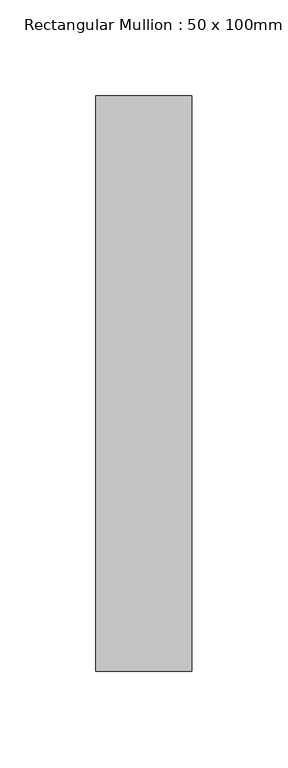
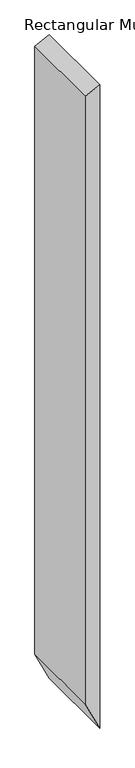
"""IFC4 building model written with IfcOpenShell, lengths in millimetres: member geometry, Rectangular Mullion : 50 x 100mm."""

import ifcopenshell
import ifcopenshell.guid

model = None  # the IFC model being written
_history = None  # IfcOwnerHistory: only IFC2X3 demands one
_inside = {}  # id of a spatial element -> (the spatial element, [elements in it])
_under = {}  # id of a project, library or spatial element -> (it, [spatial elements below it])
_declared = {}  # id of a project -> (the project, [libraries it declares])
_typed = {}  # id of a type object -> (the type object, [elements of that type])
_made_of = {}  # id of a material, layer set ... -> (it, [elements and type objects made of it])


def new_model(schema):
    """Start an empty IFC model of exactly this schema.

    Asked for "IFC4X3", IfcOpenShell would pick the latest addendum, in which some entities
    have other attributes; the version numbers below select the first issue.
    IFC2X3 requires an IfcOwnerHistory on every rooted entity: one is made here for all.
    """
    global model, _history
    if schema == "IFC4X3":
        model = ifcopenshell.file(schema_version=(4, 3, 0, 0))
    else:
        model = ifcopenshell.file(schema=schema)
    _inside.clear()
    _under.clear()
    _declared.clear()
    _typed.clear()
    _made_of.clear()
    _history = None
    if model.schema == "IFC2X3":
        org = make("IfcOrganization", Name="unknown")
        user = make(
            "IfcPersonAndOrganization",
            ThePerson=make("IfcPerson", FamilyName="unknown"),
            TheOrganization=org,
        )
        app = make(
            "IfcApplication",
            ApplicationDeveloper=org,
            Version="unknown",
            ApplicationFullName="unknown",
            ApplicationIdentifier="unknown",
        )
        _history = make(
            "IfcOwnerHistory",
            OwningUser=user,
            OwningApplication=app,
            ChangeAction="ADDED",
            CreationDate=0,
        )
    return model


def make(cls, **values):
    """One entity of the class cls with the attributes given. An attribute that is None is left unset."""
    return model.create_entity(
        cls, **{name: value for name, value in values.items() if value is not None}
    )


def rooted(cls, **values):
    """An entity with a GlobalId (a new one), such as an element, a storey or a relation."""
    return make(cls, GlobalId=ifcopenshell.guid.new(), OwnerHistory=_history, **values)


def si_unit(unit_type, name, prefix=None):
    """IfcSIUnit, for example si_unit("LENGTHUNIT", "METRE", prefix="MILLI")."""
    return make("IfcSIUnit", UnitType=unit_type, Prefix=prefix, Name=name)


def assignment(units):
    """IfcUnitAssignment: the units of a project."""
    return None if units is None else make("IfcUnitAssignment", Units=units)


def point(xyz):
    """IfcCartesianPoint."""
    return None if xyz is None else make("IfcCartesianPoint", Coordinates=xyz)


def direction(xyz):
    """IfcDirection."""
    return None if xyz is None else make("IfcDirection", DirectionRatios=xyz)


def frame(location, z_axis=None, x_axis=None):
    """IfcAxis2Placement3D, a coordinate frame: its origin and axes. An axis left out is left unset."""
    return make(
        "IfcAxis2Placement3D",
        Location=point(location),
        Axis=direction(z_axis),
        RefDirection=direction(x_axis),
    )


def origin():
    """The frame at (0, 0, 0) with its axes left unset."""
    return frame((0.0, 0.0, 0.0))


def place(relative_to, where):
    """IfcLocalPlacement: puts the frame where relative to a parent placement (None: the world)."""
    return make(
        "IfcLocalPlacement", PlacementRelTo=relative_to, RelativePlacement=where
    )


def context(
    kind, dimensions, precision=None, world=None, true_north=None, identifier=None
):
    """IfcGeometricRepresentationContext, for example the 3D "Model" context."""
    return make(
        "IfcGeometricRepresentationContext",
        ContextIdentifier=identifier,
        ContextType=kind,
        CoordinateSpaceDimension=dimensions,
        Precision=precision,
        WorldCoordinateSystem=world,
        TrueNorth=true_north,
    )


def project(units=None, contexts=None):
    """IfcProject with its units and contexts."""
    return rooted(
        "IfcProject",
        Name="project",
        RepresentationContexts=contexts,
        UnitsInContext=assignment(units),
    )


def spatial(cls, under=None, at=None, **own):
    """A site, building, storey or space (cls), placed at a placement, below another one or the project."""
    s = rooted(cls, ObjectPlacement=at, **own)
    if under is not None:
        _under.setdefault(under.id(), (under, []))[1].append(s)
    return s


def polyline(points):
    """IfcPolyline through the points."""
    return make("IfcPolyline", Points=[point(p) for p in points])


def outline(outer, holes=None, kind="AREA"):
    """IfcArbitraryClosedProfileDef: a profile drawn as a closed curve; with holes, ...WithVoids."""
    if holes is None:
        return make("IfcArbitraryClosedProfileDef", ProfileType=kind, OuterCurve=outer)
    return make(
        "IfcArbitraryProfileDefWithVoids",
        ProfileType=kind,
        OuterCurve=outer,
        InnerCurves=holes,
    )


def extrude(swept, where, along, depth):
    """IfcExtrudedAreaSolid: the profile swept, set in the frame where, extruded along a direction by depth."""
    return make(
        "IfcExtrudedAreaSolid",
        SweptArea=swept,
        Position=where,
        ExtrudedDirection=direction(along),
        Depth=depth,
    )


def shape(context_of_items, identifier, shape_type, items):
    """IfcShapeRepresentation: the items that make up one representation, for example the "Body"."""
    return make(
        "IfcShapeRepresentation",
        ContextOfItems=context_of_items,
        RepresentationIdentifier=identifier,
        RepresentationType=shape_type,
        Items=items,
    )


def source(mapping_origin, context_of_items, identifier, shape_type, items):
    """IfcRepresentationMap: a shape defined once, which mapped items show again and again."""
    return make(
        "IfcRepresentationMap",
        MappingOrigin=mapping_origin,
        MappedRepresentation=shape(context_of_items, identifier, shape_type, items),
    )


def transform(
    local_origin,
    x_axis=None,
    y_axis=None,
    z_axis=None,
    scale=None,
    scale2=None,
    scale3=None,
    uniform=True,
):
    """IfcCartesianTransformationOperator3D, or its non-uniform kind. x_axis, y_axis, z_axis: its Axis1, 2, 3."""
    if uniform:
        return make(
            "IfcCartesianTransformationOperator3D",
            Axis1=direction(x_axis),
            Axis2=direction(y_axis),
            LocalOrigin=point(local_origin),
            Scale=scale,
            Axis3=direction(z_axis),
        )
    return make(
        "IfcCartesianTransformationOperator3DnonUniform",
        Axis1=direction(x_axis),
        Axis2=direction(y_axis),
        LocalOrigin=point(local_origin),
        Scale=scale,
        Axis3=direction(z_axis),
        Scale2=scale2,
        Scale3=scale3,
    )


def mapped(mapping_source, mapping_target):
    """IfcMappedItem: shows the shape of a source again, moved by a transform."""
    return make(
        "IfcMappedItem", MappingSource=mapping_source, MappingTarget=mapping_target
    )


def made_of(thing, what):
    """Note that an element or type object is made of a material, layer set ...; save() writes the relation."""
    if what is not None:
        _made_of.setdefault(what.id(), (what, []))[1].append(thing)
    return thing


def element(
    cls,
    number,
    at=None,
    inside=None,
    cuts=None,
    type_object=None,
    material=None,
    context=None,
    identifier="Body",
    shape_type=None,
    held_by="IfcProductDefinitionShape",
    body=None,
    shapes=None,
    **own,
):
    """One element of the class cls, such as IfcWall. Its Tag is "e" and its number.

    at: its placement. inside: the storey or other place that contains it. cuts: it is an
    opening in that element (IfcRelVoidsElement). A single representation is given by context,
    identifier, shape_type and body (its items); several are given by shapes. held_by: the class
    of the entity that holds the representations. save() writes the other relations.
    """
    e = rooted(cls, Tag="e%d" % number, ObjectPlacement=at, **own)
    if body is not None:
        shapes = [shape(context, identifier, shape_type, body)]
    if shapes is not None:
        e.Representation = make(held_by, Representations=shapes)
    if inside is not None:
        _inside.setdefault(inside.id(), (inside, []))[1].append(e)
    if cuts is not None:
        rooted(
            "IfcRelVoidsElement", RelatingBuildingElement=cuts, RelatedOpeningElement=e
        )
    if type_object is not None:
        _typed.setdefault(type_object.id(), (type_object, []))[1].append(e)
    return made_of(e, material)


def aggregate(whole, parts):
    """IfcRelAggregates: a whole, such as a stair, and the parts it consists of."""
    return rooted("IfcRelAggregates", RelatingObject=whole, RelatedObjects=parts)


def save(model, path):
    """Write the relations noted so far, then the file.

    IfcRelAggregates (storeys below a building ...), IfcRelContainedInSpatialStructure (elements
    in a storey), IfcRelDefinesByType, IfcRelAssociatesMaterial and IfcRelDeclares: one each for
    every whole, place, type object, material and project.
    """
    for whole, parts in _under.values():
        aggregate(whole, parts)
    for where, things in _inside.values():
        rooted(
            "IfcRelContainedInSpatialStructure",
            RelatedElements=things,
            RelatingStructure=where,
        )
    for kind, things in _typed.values():
        rooted("IfcRelDefinesByType", RelatedObjects=things, RelatingType=kind)
    for what, things in _made_of.values():
        rooted("IfcRelAssociatesMaterial", RelatedObjects=things, RelatingMaterial=what)
    for by, libraries in _declared.values():
        rooted("IfcRelDeclares", RelatingContext=by, RelatedDefinitions=libraries)
    model.write(path)


def rectangular_mullion_50_x_100mm_044aa39e(model_context):
    return source(origin(), model_context, "Body", "SweptSolid", [
        extrude(outline(polyline([(0.0, 0.0), (-23.6761752, -50.0), (-2237.8846274, -50.0), (-2343.476007, 0.0), (0.0, 0.0)])), frame((0.0, -125.0, 0.0), z_axis=(0.0, 1.0, 0.0), x_axis=(0.0, 0.0, 1.0)), (0.0, 0.0, 1.0), 300.0),
    ])


if __name__ == "__main__":
    model = new_model("IFC4")
    model_context = context("Model", 3, world=origin())
    ifc_project = project(units=[si_unit("LENGTHUNIT", "METRE", prefix="MILLI")], contexts=[model_context])
    site = spatial("IfcSite", under=ifc_project)
    building = spatial("IfcBuilding", under=site)
    placement = place(None, origin())
    rectangular_mullion_50_x_100mm_shape = rectangular_mullion_50_x_100mm_044aa39e(model_context)
    element("IfcMember", 1, ObjectType="Rectangular Mullion : 50 x 100mm", at=placement, inside=building, context=model_context, shape_type="MappedRepresentation", body=[
        mapped(rectangular_mullion_50_x_100mm_shape, transform((0.0, 0.0, 0.0), x_axis=(1.0, 0.0, 0.0), y_axis=(0.0, 1.0, 0.0), z_axis=(0.0, 0.0, 1.0))),
    ])
    save(model, "model.ifc")
